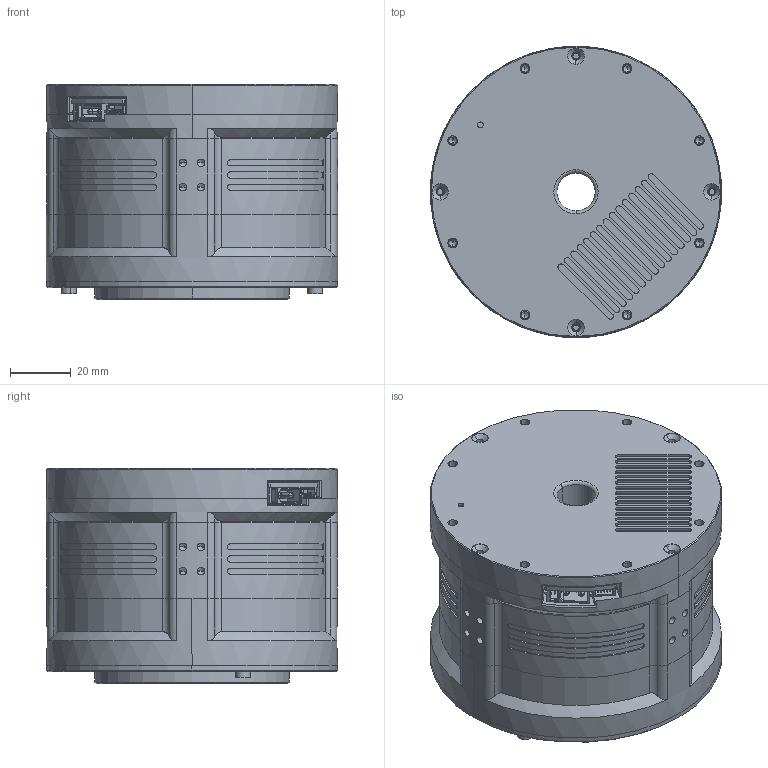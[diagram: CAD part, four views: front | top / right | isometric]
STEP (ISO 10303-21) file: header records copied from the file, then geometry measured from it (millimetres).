
FILE_DESCRIPTION (( 'STEP AP203' ), '1' );
FILE_NAME ('RMD-X8-P20-150-E-外形图.STEP', '2026-09-18T07:25:12', ( '微软用户' ), ( '微软中国' ), 'SwSTEP 2.0', 'SolidWorks 2020', '' );
FILE_SCHEMA (( 'CONFIG_CONTROL_DESIGN' ));
Length unit declared in the file: millimetre
Products named in the file (12): ______.STEP; _________Default________-1.STEP; RMD-X8-P20-150-E-俋倛芞; M2X4.STEP; _________Default________.STEP; ________-0.STEP; ________.STEP; 8MT.034.069-________ A2.STEP; 3D_MC-X-800-H-20-E-48-05 V3.4_2026-09-18; 8MT.013.216-____ A0_Default________.STEP; 8MT.013.176-__________ A0_Default________.STEP; M3X10.STEP
Assembly tree (15 placements, depth 2):
  RMD-X8-P20-150-E-俋倛芞
    _________Default________.STEP
    ______.STEP
    ________.STEP
    ________-0.STEP
    _________Default________-1.STEP  x2
    M2X4.STEP  x2
    M3X10.STEP  x3
    8MT.013.216-____ A0_Default________.STEP
    8MT.013.176-__________ A0_Default________.STEP
    8MT.034.069-________ A2.STEP
    3D_MC-X-800-H-20-E-48-05 V3.4_2026-09-18
Bounding box: 96 x 96 x 71 mm (x, y, z)
Volume: 117045.4 mm3; surface area: 114147.4 mm2
Topology: 46 solids, 46 shells, 4103 faces, 11102 edges, 7180 vertices
Faces by surface type: cylinder 1888, plane 1487, bspline 430, cone 266, torus 16, sphere 16
Entity records: 136001 total; most frequent: CARTESIAN_POINT 31545, ORIENTED_EDGE 21550, DIRECTION 20769, EDGE_CURVE 10775, AXIS2_PLACEMENT_3D 7471, VERTEX_POINT 7081, LINE 5827, VECTOR 5827
